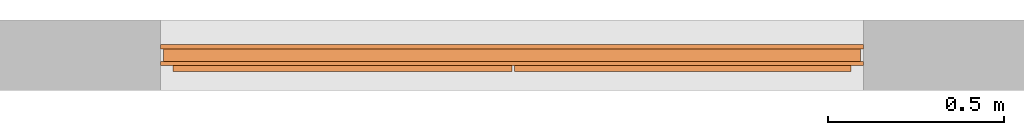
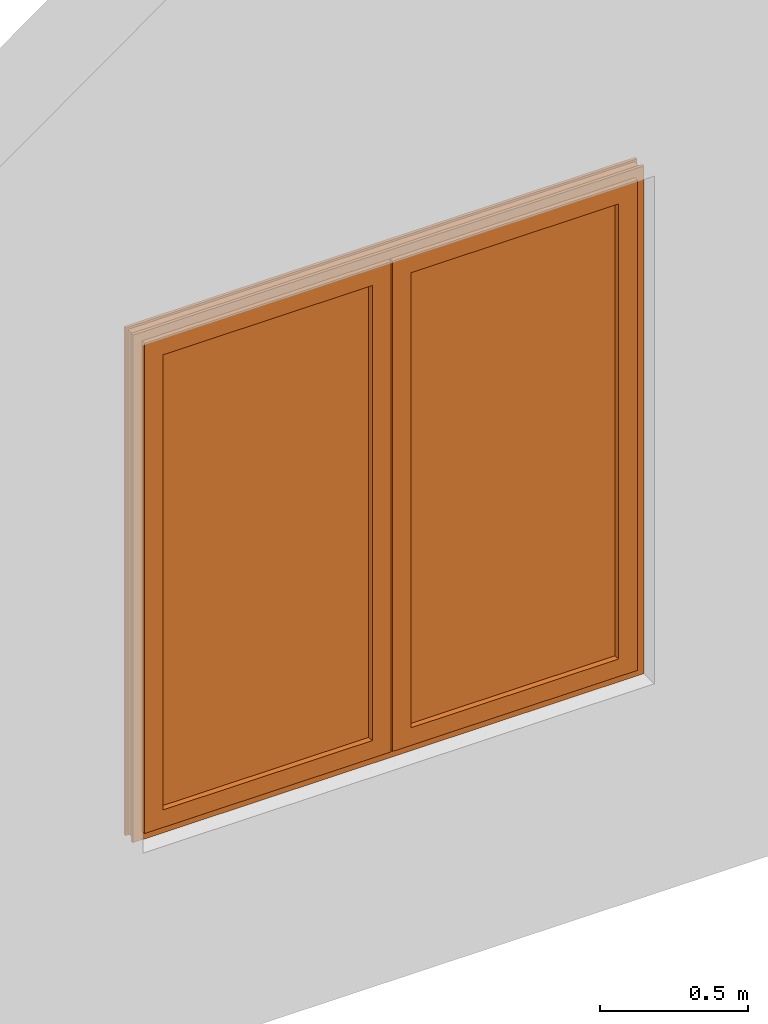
# One storey, part 2 of 2: 1 proxy.
"""IFC2X3 building model written with IfcOpenShell, lengths in millimetres."""

from ifc_helpers import new_model, entity, si_unit, converted_unit, derived_unit, direction, frame, origin, place, context, subcontext, project, spatial, faceted_brep, source, transform, mapped, material, material_list, type_object, type_shapes, element, save


model = new_model("IFC2X3")

# Units and contexts
model_context = context("Model", 3, precision=0.01, world=origin(), true_north=direction((6.12303176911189e-17, 1.0)))
body_context = subcontext(model_context, "Body", "Model", "MODEL_VIEW")
ifc_project = project(units=[si_unit("LENGTHUNIT", "METRE", prefix="MILLI"), si_unit("AREAUNIT", "SQUARE_METRE"), si_unit("VOLUMEUNIT", "CUBIC_METRE"), converted_unit("PLANEANGLEUNIT", "DEGREE", entity("IfcRatioMeasure", 0.0174532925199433), si_unit("PLANEANGLEUNIT", "RADIAN"), dimensions=[0, 0, 0, 0, 0, 0, 0]), si_unit("MASSUNIT", "GRAM", prefix="KILO"), derived_unit("MASSDENSITYUNIT", [(si_unit("MASSUNIT", "GRAM", prefix="KILO"), 1), (si_unit("LENGTHUNIT", "METRE"), -3)]), si_unit("TIMEUNIT", "SECOND"), si_unit("FREQUENCYUNIT", "HERTZ"), si_unit("THERMODYNAMICTEMPERATUREUNIT", "DEGREE_CELSIUS"), derived_unit("THERMALTRANSMITTANCEUNIT", [(si_unit("MASSUNIT", "GRAM", prefix="KILO"), 1), (si_unit("THERMODYNAMICTEMPERATUREUNIT", "KELVIN"), -1), (si_unit("TIMEUNIT", "SECOND"), -3)]), derived_unit("VOLUMETRICFLOWRATEUNIT", [(si_unit("LENGTHUNIT", "METRE"), 3), (si_unit("TIMEUNIT", "SECOND"), -1)]), si_unit("ELECTRICCURRENTUNIT", "AMPERE"), si_unit("ELECTRICVOLTAGEUNIT", "VOLT"), si_unit("POWERUNIT", "WATT"), si_unit("FORCEUNIT", "NEWTON", prefix="KILO"), si_unit("ILLUMINANCEUNIT", "LUX"), si_unit("LUMINOUSFLUXUNIT", "LUMEN"), si_unit("LUMINOUSINTENSITYUNIT", "CANDELA"), derived_unit("USERDEFINED", [(si_unit("MASSUNIT", "GRAM", prefix="KILO"), -1), (si_unit("LENGTHUNIT", "METRE"), -2), (si_unit("TIMEUNIT", "SECOND"), 3), (si_unit("LUMINOUSFLUXUNIT", "LUMEN"), 1)]), derived_unit("LINEARVELOCITYUNIT", [(si_unit("LENGTHUNIT", "METRE"), 1), (si_unit("TIMEUNIT", "SECOND"), -1)]), si_unit("PRESSUREUNIT", "PASCAL"), derived_unit("USERDEFINED", [(si_unit("LENGTHUNIT", "METRE"), -2), (si_unit("MASSUNIT", "GRAM", prefix="KILO"), 1), (si_unit("TIMEUNIT", "SECOND"), -2)])], contexts=[model_context])

# Site, building, storey
site_placement = place(None, origin())
site = spatial("IfcSite", under=ifc_project, at=site_placement, Name="Default", CompositionType="ELEMENT")
building_placement = place(site_placement, origin())
building = spatial("IfcBuilding", under=site, at=building_placement, CompositionType="ELEMENT")
storey_placement = place(building_placement, origin())
storey = spatial("IfcBuildingStorey", under=building, at=storey_placement, Name="Nivel 1", CompositionType="ELEMENT", Elevation=0.0)

# Proxy
ifc_material_1 = material(Name="RAU-PVC")
ifc_material_2 = material(Name="Glass")
ifc_material_list_1 = material_list([ifc_material_1, ifc_material_2])
ifc_material_list_2 = material_list([ifc_material_1, ifc_material_2])
building_element_proxy_type = type_object("IfcBuildingElementProxyType", Name="8.1 REH_ED-60 H T94", material=ifc_material_list_2)
shared_shape = source(origin(), body_context, "Body", "Brep", [
    faceted_brep([(1946.0, 12.0, 54.0), (1946.0, 0.0, 54.0), (1946.0, 0.0, 2046.0), (1946.0, 12.0, 2046.0), (1972.20185432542, 48.0, 27.7981456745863), (1970.0, 12.0, 30.0), (1970.0, 12.0, 2070.0), (1972.20185432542, 48.0, 2072.20185432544), (1946.0, 60.0, 54.0), (1946.0, 48.0, 54.0), (1946.0, 48.0, 2046.0), (1946.0, 60.0, 2046.0), (2000.0, 48.0, 0.0), (2000.0, 60.0, 0.0), (2000.0, 60.0, 2100.0), (2000.0, 48.0, 2100.0), (1992.0, 12.0, 8.0), (1992.0, 48.0, 8.0), (1992.0, 48.0, 2092.0), (1992.0, 12.0, 2092.0), (2000.0, 0.0, 0.0), (2000.0, 12.0, 0.0), (2000.0, 12.0, 2100.0), (2000.0, 0.0, 2100.0), (54.0, 0.0, 2046.0), (54.0, 12.0, 2046.0), (30.0, 12.0, 2070.0), (27.7981456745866, 48.0, 2072.20185432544), (54.0, 48.0, 2046.0), (54.0, 60.0, 2046.0), (0.0, 60.0, 2100.0), (0.0, 48.0, 2100.0), (8.0, 48.0, 2092.0), (8.0, 12.0, 2092.0), (0.0, 12.0, 2100.0), (0.0, 0.0, 2100.0), (54.0, 0.0, 54.0), (54.0, 12.0, 54.0), (30.0, 12.0, 30.0), (27.7981456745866, 48.0, 27.7981456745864), (54.0, 48.0, 54.0), (54.0, 60.0, 54.0), (0.0, 60.0, 0.0), (0.0, 48.0, 0.0), (8.0, 48.0, 8.0), (8.0, 12.0, 8.0), (0.0, 12.0, 0.0), (0.0, 0.0, 0.0)], [[[0, 1, 2, 3]], [[4, 5, 6, 7]], [[8, 9, 10, 11]], [[12, 13, 14, 15]], [[16, 17, 18, 19]], [[20, 21, 22, 23]], [[3, 2, 24, 25]], [[7, 6, 26, 27]], [[11, 10, 28, 29]], [[15, 14, 30, 31]], [[19, 18, 32, 33]], [[23, 22, 34, 35]], [[25, 24, 36, 37]], [[27, 26, 38, 39]], [[29, 28, 40, 41]], [[31, 30, 42, 43]], [[33, 32, 44, 45]], [[35, 34, 46, 47]], [[1, 0, 37, 36]], [[0, 3, 25, 37], [6, 5, 38, 26]], [[5, 4, 39, 38]], [[4, 7, 27, 39], [10, 9, 40, 28]], [[9, 8, 41, 40]], [[8, 11, 29, 41], [14, 13, 42, 30]], [[13, 12, 43, 42]], [[12, 15, 31, 43], [18, 17, 44, 32]], [[17, 16, 45, 44]], [[16, 19, 33, 45], [22, 21, 46, 34]], [[21, 20, 47, 46]], [[2, 1, 36, 24], [20, 23, 35, 47]]], outer=[[True], [True], [True], [True], [True], [True], [True], [True], [True], [True], [True], [True], [True], [True], [True], [True], [True], [True], [True], [False, True], [True], [True, False], [True], [False, True], [True], [True, False], [True], [False, True], [True], [False, True]]),
    faceted_brep([(1024.0, 0.031015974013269, 2040.0), (1024.0, 17.0, 2040.0), (969.554593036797, 17.0, 2040.0), (969.554593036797, 0.031015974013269, 2040.0), (1024.0, 0.031015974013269, 60.0), (969.554593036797, 0.031015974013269, 60.0), (969.554593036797, 17.0, 60.0), (1024.0, 17.0, 60.0)], [[[0, 1, 2, 3]], [[4, 5, 6, 7]], [[1, 0, 4, 7]], [[2, 1, 7, 6]], [[3, 2, 6, 5]], [[0, 3, 5, 4]]]),
    faceted_brep([(1019.99931476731, 17.0, 2044.00068523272), (1019.99931476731, 60.0, 2044.00068523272), (1019.99931476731, 60.0, 55.9993147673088), (1019.99931476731, 17.0, 55.9993147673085), (1081.74098451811, 36.0, 1982.25901548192), (1076.64994986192, 17.0, 1987.35005013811), (1076.64994986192, 17.0, 112.649949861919), (1081.74098451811, 36.0, 117.740984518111), (1059.96931476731, 55.0, 2004.03068523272), (1059.96931476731, 36.0, 2004.03068523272), (1059.96931476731, 36.0, 95.969314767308), (1059.96931476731, 55.0, 95.969314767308), (1072.72904449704, 77.0, 1991.27095550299), (1078.67499044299, 55.0, 1985.32500955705), (1078.67499044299, 55.0, 114.674990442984), (1072.72904449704, 77.0, 108.729044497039), (999.999314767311, 60.0, 2064.00068523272), (999.999314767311, 77.0, 2064.00068523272), (999.999314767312, 77.0, 35.9993147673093), (999.999314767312, 60.0, 35.9993147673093), (1944.0006852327, 60.0, 55.9993147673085), (1944.0006852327, 17.0, 55.9993147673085), (1887.35005013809, 17.0, 112.649949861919), (1882.25901548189, 36.0, 117.740984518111), (1904.0306852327, 36.0, 95.9693147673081), (1904.0306852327, 55.0, 95.9693147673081), (1885.32500955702, 55.0, 114.674990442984), (1891.27095550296, 77.0, 108.729044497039), (1964.00068523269, 77.0, 35.9993147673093), (1964.00068523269, 60.0, 35.9993147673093), (1944.00068523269, 60.0, 2044.00068523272), (1944.00068523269, 17.0, 2044.00068523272), (1887.35005013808, 17.0, 1987.35005013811), (1882.25901548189, 36.0, 1982.25901548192), (1904.0306852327, 36.0, 2004.03068523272), (1904.0306852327, 55.0, 2004.03068523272), (1885.32500955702, 55.0, 1985.32500955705), (1891.27095550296, 77.0, 1991.27095550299), (1964.00068523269, 77.0, 2064.00068523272), (1964.00068523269, 60.0, 2064.00068523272)], [[[0, 1, 2, 3]], [[4, 5, 6, 7]], [[8, 9, 10, 11]], [[12, 13, 14, 15]], [[16, 17, 18, 19]], [[3, 2, 20, 21]], [[7, 6, 22, 23]], [[11, 10, 24, 25]], [[15, 14, 26, 27]], [[19, 18, 28, 29]], [[21, 20, 30, 31]], [[23, 22, 32, 33]], [[25, 24, 34, 35]], [[27, 26, 36, 37]], [[29, 28, 38, 39]], [[19, 29, 39, 16], [1, 30, 20, 2]], [[31, 30, 1, 0]], [[3, 21, 31, 0], [5, 32, 22, 6]], [[33, 32, 5, 4]], [[7, 23, 33, 4], [9, 34, 24, 10]], [[35, 34, 9, 8]], [[11, 25, 35, 8], [13, 36, 26, 14]], [[37, 36, 13, 12]], [[15, 27, 37, 12], [17, 38, 28, 18]], [[39, 38, 17, 16]]], outer=[[True], [True], [True], [True], [True], [True], [True], [True], [True], [True], [True], [True], [True], [True], [True], [True, False], [True], [True, False], [True], [False, True], [True], [True, False], [True], [False, True], [True]]),
    faceted_brep([(993.555278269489, 77.0, 2064.00068523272), (993.555278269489, 60.0, 2064.00068523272), (993.555278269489, 60.0, 35.9993147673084), (993.555278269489, 77.0, 35.9993147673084), (914.879602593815, 55.0, 1985.32500955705), (920.825548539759, 77.0, 1991.27095550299), (920.825548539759, 77.0, 108.729044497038), (914.879602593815, 55.0, 114.674990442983), (933.58527826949, 36.0, 2004.03068523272), (933.58527826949, 55.0, 2004.03068523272), (933.58527826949, 55.0, 95.9693147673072), (933.58527826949, 36.0, 95.9693147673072), (916.904643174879, 17.0, 1987.35005013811), (911.813608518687, 36.0, 1982.25901548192), (911.813608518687, 36.0, 117.74098451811), (916.904643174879, 17.0, 112.649949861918), (973.55527826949, 60.0, 2044.00068523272), (973.55527826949, 17.0, 2044.00068523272), (973.55527826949, 17.0, 55.9993147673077), (973.55527826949, 60.0, 55.9993147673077), (35.9993147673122, 60.0, 35.9993147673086), (35.9993147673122, 77.0, 35.9993147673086), (108.729044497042, 77.0, 108.729044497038), (114.674990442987, 55.0, 114.674990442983), (95.969314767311, 55.0, 95.9693147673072), (95.969314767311, 36.0, 95.9693147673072), (117.740984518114, 36.0, 117.74098451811), (112.649949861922, 17.0, 112.649949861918), (55.9993147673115, 17.0, 55.9993147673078), (55.9993147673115, 60.0, 55.9993147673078), (35.9993147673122, 60.0, 2064.00068523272), (35.9993147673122, 77.0, 2064.00068523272), (108.729044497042, 77.0, 1991.27095550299), (114.674990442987, 55.0, 1985.32500955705), (95.969314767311, 55.0, 2004.03068523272), (95.969314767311, 36.0, 2004.03068523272), (117.740984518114, 36.0, 1982.25901548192), (112.649949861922, 17.0, 1987.35005013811), (55.9993147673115, 17.0, 2044.00068523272), (55.9993147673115, 60.0, 2044.00068523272)], [[[0, 1, 2, 3]], [[4, 5, 6, 7]], [[8, 9, 10, 11]], [[12, 13, 14, 15]], [[16, 17, 18, 19]], [[3, 2, 20, 21]], [[7, 6, 22, 23]], [[11, 10, 24, 25]], [[15, 14, 26, 27]], [[19, 18, 28, 29]], [[21, 20, 30, 31]], [[23, 22, 32, 33]], [[25, 24, 34, 35]], [[27, 26, 36, 37]], [[29, 28, 38, 39]], [[31, 30, 1, 0]], [[3, 21, 31, 0], [5, 32, 22, 6]], [[33, 32, 5, 4]], [[7, 23, 33, 4], [9, 34, 24, 10]], [[35, 34, 9, 8]], [[11, 25, 35, 8], [13, 36, 26, 14]], [[37, 36, 13, 12]], [[15, 27, 37, 12], [17, 38, 28, 18]], [[39, 38, 17, 16]], [[19, 29, 39, 16], [1, 30, 20, 2]]], outer=[[True], [True], [True], [True], [True], [True], [True], [True], [True], [True], [True], [True], [True], [True], [True], [True], [True, False], [True], [False, True], [True], [True, False], [True], [False, True], [True], [False, True]]),
    faceted_brep([(60.0, 45.0, 2040.0), (60.0, 45.0, 60.0), (969.554593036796, 45.0, 60.0), (969.554593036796, 45.0, 2040.0), (60.0, 60.0, 2040.0), (969.554593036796, 60.0, 2040.0), (969.554593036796, 60.0, 60.0), (60.0, 60.0, 60.0)], [[[0, 1, 2, 3]], [[4, 5, 6, 7]], [[0, 3, 5, 4]], [[3, 2, 6, 5]], [[2, 1, 7, 6]], [[1, 0, 4, 7]]]),
    faceted_brep([(1024.0, 45.0, 2040.0), (1940.0, 45.0, 2040.0), (1940.0, 60.0, 2040.0), (1024.0, 60.0, 2040.0), (1024.0, 45.0, 60.0), (1024.0, 60.0, 60.0), (1940.0, 45.0, 60.0), (1940.0, 60.0, 60.0)], [[[0, 1, 2, 3]], [[4, 0, 3, 5]], [[6, 4, 5, 7]], [[1, 6, 7, 2]], [[2, 7, 5, 3]], [[1, 0, 4, 6]]]),
])
type_shapes(building_element_proxy_type, [shared_shape])
proxy_placement = place(storey_placement, frame((316.266424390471, 2911.09928072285, 868.547029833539), z_axis=(0.0, 0.0, 1.0), x_axis=(-1.0, 0.0, 0.0)))
element("IfcBuildingElementProxy", 1, at=proxy_placement, inside=storey, type_object=building_element_proxy_type, material=ifc_material_list_1, Name="8.1 REH_ED-60 H T94 :8.1 REH_ED-60 H T94", ObjectType="8.1 REH_ED-60 H T94", context=body_context, shape_type="MappedRepresentation", body=[
    mapped(shared_shape, transform((0.0, 0.0, 0.0), scale=1.0)),
])

save(model, "model.ifc")
